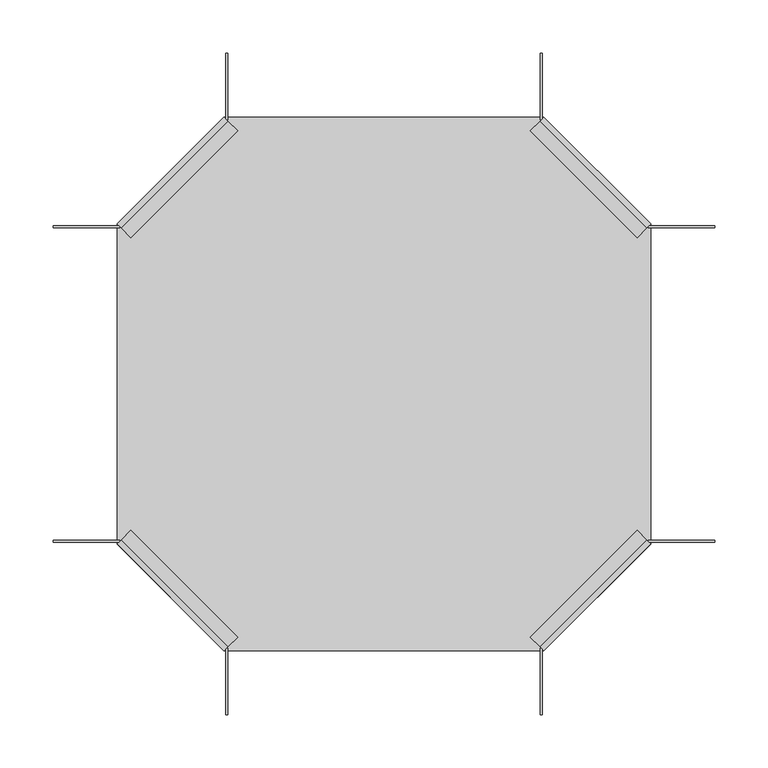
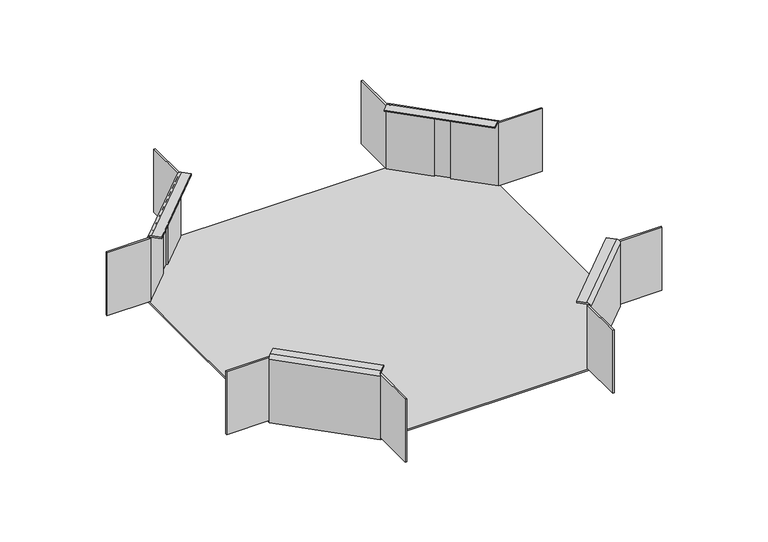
"""IFC4 building model written with IfcOpenShell, lengths in millimetres: cable carrier fitting geometry, CRWT_Horizontal Cross-over_Basorcanal : Basorcanal CRWT."""

from ifc_helpers import new_model, si_unit, point, frame, frame_2d, origin, place, context, project, spatial, polyline, circle_curve, trimmed, segment, composite_curve, outline, extrude, source, transform, mapped, element, save


def cable_carrier_fitting_4e509324(model_context):
    return source(origin(), model_context, "Body", "SweptSolid", [
        extrude(outline(polyline([(204.745166, 189.5979797), (206.1593796, 191.0121933), (248.5857864, 148.5857864), (310.0, 148.5857864), (310.0, 146.5857864), (247.7573593, 146.5857864), (204.745166, 189.5979797)])), frame((0.0, 0.0, -48.0), z_axis=(0.0, 0.0, 1.0), x_axis=(1.0, 0.0, 0.0)), (0.0, 0.0, 1.0), 95.0),
        extrude(outline(polyline([(204.745166, -189.5979797), (247.7573593, -146.5857864), (310.0, -146.5857864), (310.0, -148.5857864), (248.5857864, -148.5857864), (206.1593796, -191.0121933), (204.745166, -189.5979797)])), frame((0.0, 0.0, -48.0), z_axis=(0.0, 0.0, 1.0), x_axis=(1.0, 0.0, 0.0)), (0.0, 0.0, 1.0), 95.0),
        extrude(outline(polyline([(189.5979797, -204.745166), (191.0121933, -206.1593796), (148.5857864, -248.5857864), (148.5857864, -310.0), (146.5857864, -310.0), (146.5857864, -247.7573593), (189.5979797, -204.745166)])), frame((0.0, 0.0, -48.0), z_axis=(0.0, 0.0, 1.0), x_axis=(1.0, 0.0, 0.0)), (0.0, 0.0, 1.0), 95.0),
        extrude(outline(composite_curve([segment(trimmed(circle_curve(frame_2d((-95.0, 5.0)), 5.0), [point((-95.0, 0.0))], [point((-100.0, 5.0))], False, "CARTESIAN"), True, "CONTINUOUS"), segment(polyline([(-100.0, 5.0), (-100.0, 18.0000001), (-98.0, 18.0000001), (-98.0, 5.0)]), True, "CONTINUOUS"), segment(trimmed(circle_curve(frame_2d((-95.0, 5.0)), 3.0), [point((-98.0, 5.0))], [point((-95.0, 2.0000001))], True, "CARTESIAN"), True, "CONTINUOUS"), segment(polyline([(-95.0, 2.0000001), (0.0, 2.0000001), (0.0, 0.0), (-95.0, 0.0)]), True, "CONTINUOUS")], self_intersect=False)), frame((150.0, -250.0, -50.0), z_axis=(0.7071067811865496, 0.7071067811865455, 0.0), x_axis=(0.0, 0.0, -1.0)), (0.0, 0.0, 1.0), 141.4213562),
        extrude(outline(polyline([(189.5979797, 204.745166), (146.5857864, 247.7573593), (146.5857864, 310.0), (148.5857864, 310.0), (148.5857864, 248.5857864), (191.0121933, 206.1593796), (189.5979797, 204.745166)])), frame((0.0, 0.0, -48.0), z_axis=(0.0, 0.0, 1.0), x_axis=(1.0, 0.0, 0.0)), (0.0, 0.0, 1.0), 95.0),
        extrude(outline(composite_curve([segment(trimmed(circle_curve(frame_2d((-95.0, 5.0)), 5.0), [point((-95.0, 0.0))], [point((-100.0, 5.0))], False, "CARTESIAN"), True, "CONTINUOUS"), segment(polyline([(-100.0, 5.0), (-100.0, 18.0000001), (-98.0, 18.0000001), (-98.0, 5.0)]), True, "CONTINUOUS"), segment(trimmed(circle_curve(frame_2d((-95.0, 5.0)), 3.0), [point((-98.0, 5.0))], [point((-95.0, 2.0000001))], True, "CARTESIAN"), True, "CONTINUOUS"), segment(polyline([(-95.0, 2.0000001), (0.0, 2.0000001), (0.0, 0.0), (-95.0, 0.0)]), True, "CONTINUOUS")], self_intersect=False)), frame((250.0, 150.0, -50.0), z_axis=(-0.7071067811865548, 0.7071067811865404, 0.0), x_axis=(0.0, 0.0, -1.0)), (0.0, 0.0, 1.0), 141.4213562),
        extrude(outline(polyline([(-204.745166, -189.5979797), (-206.1593796, -191.0121933), (-248.5857864, -148.5857864), (-310.0, -148.5857864), (-310.0, -146.5857864), (-247.7573593, -146.5857864), (-204.745166, -189.5979797)])), frame((0.0, 0.0, -48.0), z_axis=(0.0, 0.0, 1.0), x_axis=(1.0, 0.0, 0.0)), (0.0, 0.0, 1.0), 95.0),
        extrude(outline(polyline([(-189.5979797, -204.745166), (-146.5857864, -247.7573593), (-146.5857864, -310.0), (-148.5857864, -310.0), (-148.5857864, -248.5857864), (-191.0121933, -206.1593796), (-189.5979797, -204.745166)])), frame((0.0, 0.0, -48.0), z_axis=(0.0, 0.0, 1.0), x_axis=(1.0, 0.0, 0.0)), (0.0, 0.0, 1.0), 95.0),
        extrude(outline(composite_curve([segment(polyline([(-95.0, 0.0), (0.0, 0.0), (0.0, -2.0000001), (-95.0, -2.0000001)]), True, "CONTINUOUS"), segment(trimmed(circle_curve(frame_2d((-95.0, -5.0)), 3.0), [point((-95.0, -2.0000001))], [point((-98.0, -5.0))], True, "CARTESIAN"), True, "CONTINUOUS"), segment(polyline([(-98.0, -5.0), (-98.0, -18.0000001), (-100.0, -18.0000001), (-100.0, -5.0)]), True, "CONTINUOUS"), segment(trimmed(circle_curve(frame_2d((-95.0, -5.0)), 5.0), [point((-100.0, -5.0))], [point((-95.0, 0.0))], False, "CARTESIAN"), True, "CONTINUOUS")], self_intersect=False)), frame((-150.0, -250.0, -50.0), z_axis=(-0.7071067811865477, 0.7071067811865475, 0.0), x_axis=(0.0, 0.0, -1.0)), (0.0, 0.0, 1.0), 141.4213562),
        extrude(outline(polyline([(-189.5979797, 204.745166), (-191.0121933, 206.1593796), (-148.5857864, 248.5857864), (-148.5857864, 310.0), (-146.5857864, 310.0), (-146.5857864, 247.7573593), (-189.5979797, 204.745166)])), frame((0.0, 0.0, -48.0), z_axis=(0.0, 0.0, 1.0), x_axis=(1.0, 0.0, 0.0)), (0.0, 0.0, 1.0), 95.0),
        extrude(outline(polyline([(-204.745166, 189.5979797), (-247.7573593, 146.5857864), (-310.0, 146.5857864), (-310.0, 148.5857864), (-248.5857864, 148.5857864), (-206.1593796, 191.0121933), (-204.745166, 189.5979797)])), frame((0.0, 0.0, -48.0), z_axis=(0.0, 0.0, 1.0), x_axis=(1.0, 0.0, 0.0)), (0.0, 0.0, 1.0), 95.0),
        extrude(outline(polyline([(-150.0, 250.0), (150.0, 250.0), (250.0, 150.0), (250.0, -150.0), (150.0, -250.0), (-150.0, -250.0), (-250.0, -150.0), (-250.0, 150.0), (-150.0, 250.0)])), frame((0.0, 0.0, -50.0), z_axis=(0.0, 0.0, 1.0), x_axis=(1.0, 0.0, 0.0)), (0.0, 0.0, 1.0), 2.0),
        extrude(outline(composite_curve([segment(polyline([(-95.0, 0.0), (0.0, 0.0), (0.0, -2.0000001), (-95.0, -2.0000001)]), True, "CONTINUOUS"), segment(trimmed(circle_curve(frame_2d((-95.0, -5.0)), 3.0), [point((-95.0, -2.0000001))], [point((-98.0, -5.0))], True, "CARTESIAN"), True, "CONTINUOUS"), segment(polyline([(-98.0, -5.0), (-98.0, -18.0000001), (-100.0, -18.0000001), (-100.0, -5.0)]), True, "CONTINUOUS"), segment(trimmed(circle_curve(frame_2d((-95.0, -5.0)), 5.0), [point((-100.0, -5.0))], [point((-95.0, 0.0))], False, "CARTESIAN"), True, "CONTINUOUS")], self_intersect=False)), frame((-250.0, 150.0, -50.0), z_axis=(0.7071067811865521, 0.7071067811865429, 0.0), x_axis=(0.0, 0.0, -1.0)), (0.0, 0.0, 1.0), 141.4213562),
    ])


if __name__ == "__main__":
    model = new_model("IFC4")
    model_context = context("Model", 3, world=origin())
    ifc_project = project(units=[si_unit("LENGTHUNIT", "METRE", prefix="MILLI")], contexts=[model_context])
    site = spatial("IfcSite", under=ifc_project)
    building = spatial("IfcBuilding", under=site)
    placement = place(None, origin())
    cable_carrier_fitting_shape = cable_carrier_fitting_4e509324(model_context)
    element("IfcCableCarrierFitting", 1, ObjectType="CRWT_Horizontal Cross-over_Basorcanal : Basorcanal CRWT", at=placement, inside=building, context=model_context, shape_type="MappedRepresentation", body=[
        mapped(cable_carrier_fitting_shape, transform((0.0, 0.0, 0.0), x_axis=(1.0, 0.0, 0.0), y_axis=(0.0, 1.0, 0.0), z_axis=(0.0, 0.0, 1.0))),
    ])
    save(model, "model.ifc")
